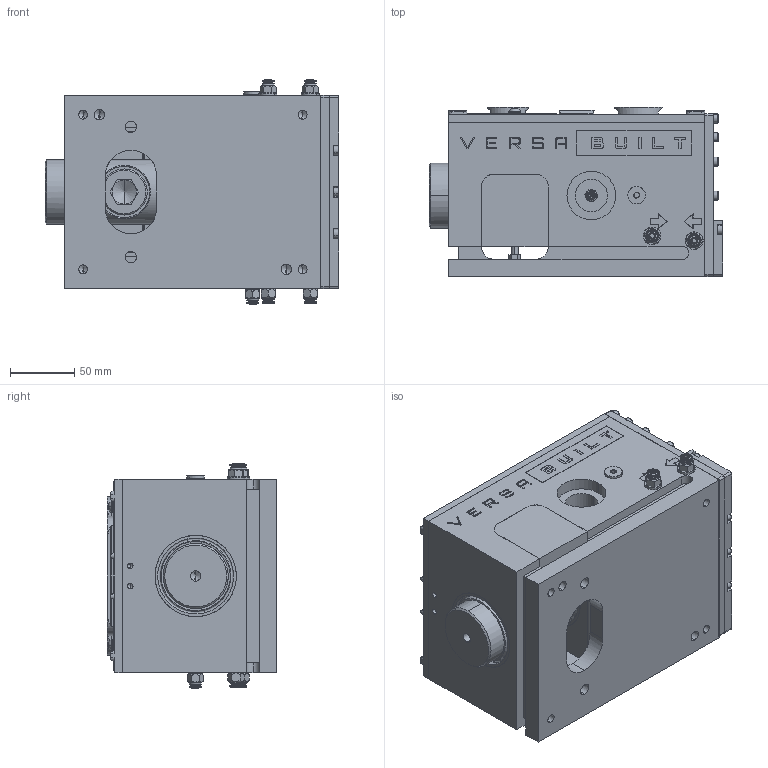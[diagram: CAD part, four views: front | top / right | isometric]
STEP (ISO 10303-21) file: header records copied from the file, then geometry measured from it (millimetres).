
FILE_DESCRIPTION (( 'STEP AP214' ), '1' );
FILE_NAME ('VERSABUILT MULTIGRIP VISE 4000 - STEEL TOP - 2025-05-14.STEP', '2025-05-14T23:30:32', ( '' ), ( '' ), 'SwSTEP 2.0', 'SolidWorks 2019', '' );
FILE_SCHEMA (( 'AUTOMOTIVE_DESIGN' ));
Length unit declared in the file: inch
Products named in the file (34): M8 SEALING WASHER_93303A103; 5008662_Default Configuration; 5010591_94669A031; VERSABUILT MULTIGRIP VISE 4000 - STEEL TOP - 2025-05-14; 5001681_51495K182; M10x1.5 SHCS_SHCS M10-1.5 x 20 - LOW PROFILE; 5008655_base only; 5008073_1504N23; 5008663_91259A716; 5013217_1095K111; M5X0.80 BHCS_BHCS M5x0.8 x 12mm; 5008582_5008314 - MULTIGRIP FJ VISE PROFILE; 5010105_Default Configuration; M5x0.8 FHCS_M5x0.8 FHCS x 8mm; M5 DOWEL PIN_DP M5 X 16mm; 5010088_Default Configuration; M8 DOWEL PIN_M8 DOWEL PIN x 30mm; 5008713_Default Configuration; M24x3.0 SHCS_M24x3.0 SHCS x 40; 5010583_Default Configuration; 5008737_Default Configuration; M8x1.25 SHCS_SHCS M8-1.25 x 16; 5008611_As Machined; M4x0.7 SHCS_SHCS M4-0.7 x 16; M5x0.8 HHCS_HHCS M5x0.8x16-C; 5008658_Default Configuration; 5008505_9452K24; M8x1.25 FHCS_FHCS M8x1.25x22-C; 5010570_Default Configuration; M8x1.00 SHCS_M8x1.00 SHCS x 12; 5010098_Default Configuration; 5008590_MG FJ VISE - END PLATE FACE SEAL; M4x0.7 SHCS_SHCS M4-0.7 x 12; M5 DOWEL PIN_DP M5 X 18mm
Assembly tree (77 placements, depth 2):
  VERSABUILT MULTIGRIP VISE 4000 - STEEL TOP - 2025-05-14
    5008655_base only
    5008658_Default Configuration
    5008663_91259A716
    5008662_Default Configuration
    5008713_Default Configuration
    M4x0.7 SHCS_SHCS M4-0.7 x 12  x21
    M4x0.7 SHCS_SHCS M4-0.7 x 16
    M5 DOWEL PIN_DP M5 X 16mm  x2
    M8 SEALING WASHER_93303A103
    M8x1.00 SHCS_M8x1.00 SHCS x 12
    M24x3.0 SHCS_M24x3.0 SHCS x 40
    M8x1.25 SHCS_SHCS M8-1.25 x 16
    5008505_9452K24  x2
    5008582_5008314 - MULTIGRIP FJ VISE PROFILE
    5008590_MG FJ VISE - END PLATE FACE SEAL
    5008073_1504N23  x3
    5001681_51495K182  x5
    M5 DOWEL PIN_DP M5 X 18mm
    5010088_Default Configuration
    5010098_Default Configuration
    M8x1.25 FHCS_FHCS M8x1.25x22-C  x6
    M10x1.5 SHCS_SHCS M10-1.5 x 20 - LOW PROFILE  x3
    M8 DOWEL PIN_M8 DOWEL PIN x 30mm  x2
    M5x0.8 FHCS_M5x0.8 FHCS x 8mm  x4
    5010105_Default Configuration
    5008611_As Machined  x3
    5010570_Default Configuration
    5010583_Default Configuration  x2
    M5x0.8 HHCS_HHCS M5x0.8x16-C  x2
    5010591_94669A031  x2
    M5X0.80 BHCS_BHCS M5x0.8 x 12mm  x2
    5013217_1095K111
  5008737_Default Configuration
Bounding box: 229.36 x 132.27 x 175.63 mm (x, y, z)
Volume: 3271049.9 mm3; surface area: 571863.6 mm2
Topology: 84 solids, 84 shells, 3599 faces, 8560 edges, 5181 vertices
Faces by surface type: plane 1429, cylinder 1075, cone 729, torus 293, bspline 67, sphere 6
Entity records: 77526 total; most frequent: CARTESIAN_POINT 19283, DIRECTION 11977, ORIENTED_EDGE 11266, EDGE_CURVE 5633, AXIS2_PLACEMENT_3D 4527, VERTEX_POINT 3544, VECTOR 2923, LINE 2923
